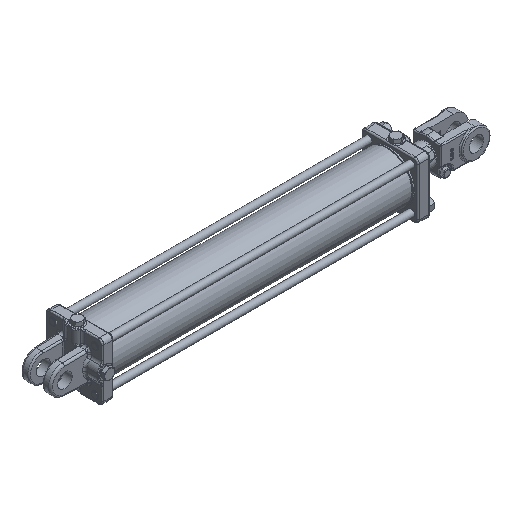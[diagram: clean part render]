
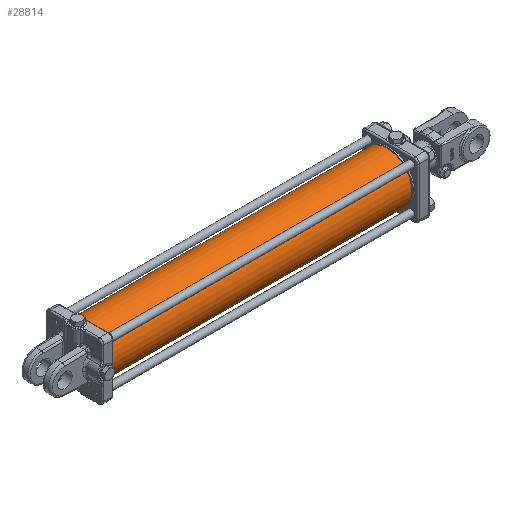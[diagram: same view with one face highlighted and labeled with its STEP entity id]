
A CAD part, isometric view. The second image highlights one B-rep face of the part: STEP entity #28814.
In plain terms, the highlighted cylindrical face has radius 55.562 mm (diameter 111.125 mm), a full revolution.
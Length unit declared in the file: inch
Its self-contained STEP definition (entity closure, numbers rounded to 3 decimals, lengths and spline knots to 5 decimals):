
#28780=CARTESIAN_POINT('',(0.0,2.1875,0.));
#28781=VERTEX_POINT('',#28780);
#28782=CARTESIAN_POINT('',(0.0,0.0,0.0));
#28783=DIRECTION('',(0.0,0.0,-1.0));
#28784=DIRECTION('',(0.0,1.0,0.0));
#28785=AXIS2_PLACEMENT_3D('',#28782,#28783,#28784);
#28786=CIRCLE('',#28785,2.1875);
#28787=EDGE_CURVE('',#28781,#28781,#28786,.T.);
#28795=CARTESIAN_POINT('',(0.0,0.0,-13.28125));
#28796=DIRECTION('',(0.0,0.0,-1.0));
#28797=DIRECTION('',(0.0,1.0,0.0));
#28798=AXIS2_PLACEMENT_3D('',#28795,#28796,#28797);
#28799=CYLINDRICAL_SURFACE('',#28798,2.1875);
#28800=CARTESIAN_POINT('',(0.0,2.1875,-26.5625));
#28801=VERTEX_POINT('',#28800);
#28802=CARTESIAN_POINT('',(0.0,0.0,-26.5625));
#28803=DIRECTION('',(0.0,0.0,-1.0));
#28804=DIRECTION('',(0.0,1.0,0.0));
#28805=AXIS2_PLACEMENT_3D('',#28802,#28803,#28804);
#28806=CIRCLE('',#28805,2.1875);
#28807=EDGE_CURVE('',#28801,#28801,#28806,.T.);
#28808=ORIENTED_EDGE('',*,*,#28807,.F.);
#28809=EDGE_LOOP('',(#28808));
#28810=FACE_OUTER_BOUND('',#28809,.T.);
#28811=ORIENTED_EDGE('',*,*,#28787,.T.);
#28812=EDGE_LOOP('',(#28811));
#28813=FACE_BOUND('',#28812,.T.);
#28814=ADVANCED_FACE('',(#28810,#28813),#28799,.T.);
